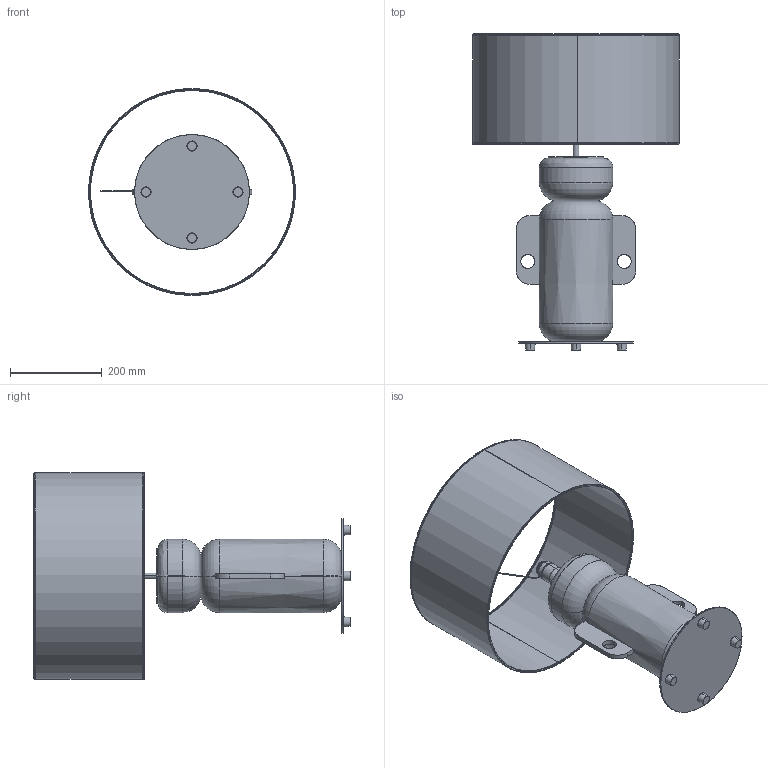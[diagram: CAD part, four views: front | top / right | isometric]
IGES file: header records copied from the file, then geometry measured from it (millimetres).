
Start section: SolidWorks IGES file using analytic representation for surfaces
Global section: file name: C:\Users\Agus\Desktop\propuestas SEPT. 2020\ceramica 2\NAC121.IGS; native system: SolidWorks 2018; preprocessor: SolidWorks 2018; author: Agus; date: 201026.170426; units: millimetre
Bounding box: 449.98 x 688 x 449.98 mm (x, y, z)
Surface area: 1125205.7 mm2 (no closed solid volume)
Topology: 0 solids, 0 shells, 170 faces, 3269 edges, 3269 vertices
Faces by surface type: revolution 92, bspline 78
